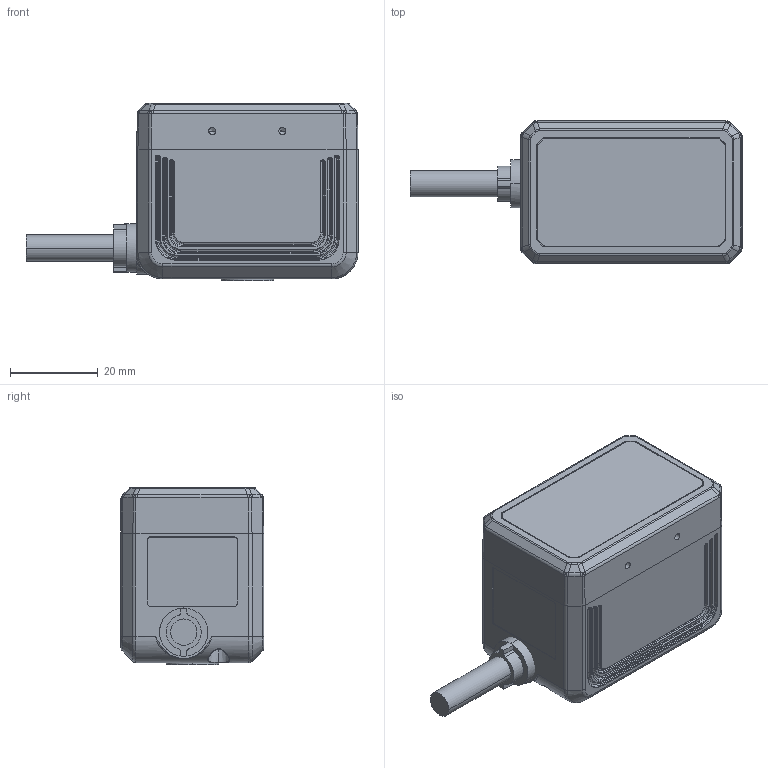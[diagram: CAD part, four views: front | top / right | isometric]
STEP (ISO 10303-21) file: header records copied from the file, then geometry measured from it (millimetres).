
FILE_DESCRIPTION((''),'2;1');
FILE_NAME('R-3000_ASM','2024-10-31T21:20:34',('SZ4070'),(''),'CREO PARAMETRIC BY PTC INC, 2020354','CREO PARAMETRIC BY PTC INC, 2020354','');
FILE_SCHEMA(('CONFIG_CONTROL_DESIGN'));
Length unit declared in the file: millimetre
Products named in the file (1): R-3000_ASM
Bounding box: 75.75 x 32.8 x 40.4 mm (x, y, z)
Surface area: 23898.2 mm2 (no closed solid volume)
Topology: 0 solids, 10 shells, 1579 faces, 4030 edges, 2507 vertices
Faces by surface type: plane 768, cylinder 317, cone 205, bspline 140, torus 130, extrusion 19
Entity records: 52158 total; most frequent: CARTESIAN_POINT 14344, ORIENTED_EDGE 7960, DIRECTION 7725, EDGE_CURVE 3980, AXIS2_PLACEMENT_3D 2577, VECTOR 2571, LINE 2552, VERTEX_POINT 2507
